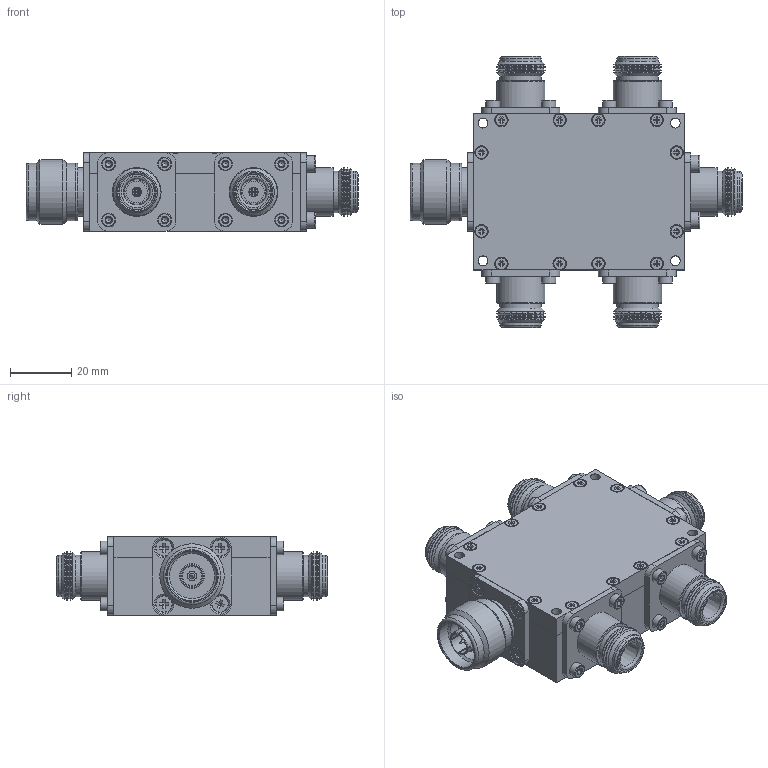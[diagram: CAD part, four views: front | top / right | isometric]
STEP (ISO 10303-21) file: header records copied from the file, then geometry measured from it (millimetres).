
FILE_DESCRIPTION(/* description */ ('Unknown'),/* implementation_level */ '2;1');
FILE_NAME(/* name */ 'DETI_MICROWAVE_HIGH_POWER_DUAL_DIRECTIONAL_COUPLER_800061_STEP',/* time_stamp */ '2021-06-11T11:20:50+02:00',/* author */ ('ALG'),/* organization */ ('DETI'),/* preprocessor_version */ 'ST-DEVELOPER v16.7',/* originating_system */ 'Solid Edge',/* authorisation */ 'Unknown');
FILE_SCHEMA (('AUTOMOTIVE_DESIGN {1 0 10303 214 3 1 1}'));
Products named in the file (1): 800061 0A 1601A2
Bounding box: 108.06 x 88.24 x 25.4 mm (x, y, z)
Volume: 110946.2 mm3; surface area: 47831.2 mm2
Topology: 44 solids, 44 shells, 2039 faces, 5144 edges, 3220 vertices
Faces by surface type: plane 1286, cone 365, cylinder 288, torus 100
Full cylindrical faces by diameter (mm): 1.275 x5, 1.567 x12, 1.65 x1, 2 x12, 2.013 x16, 2.2 x12, 2.4 x1, 2.459 x8, 2.5 x16, 3 x8, 3.03 x7, 3.2 x8, 3.3 x24, 3.8 x12, 4.08 x5, 4.1 x2, 4.5 x16, 5.5 x4, 7 x6, 7.5 x5, 8.9 x5, 9 x5, 13.5 x10, 14.54 x15, 14.6 x1, 14.73 x1, 15.5 x1, 15.75 x5, 15.84 x10, 15.9 x1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
Entity records: 57566 total; most frequent: CARTESIAN_POINT 10452, DIRECTION 9312, ORIENTED_EDGE 8804, EDGE_CURVE 4402, AXIS2_PLACEMENT_3D 3202, VERTEX_POINT 3104, LINE 2908, VECTOR 2908
